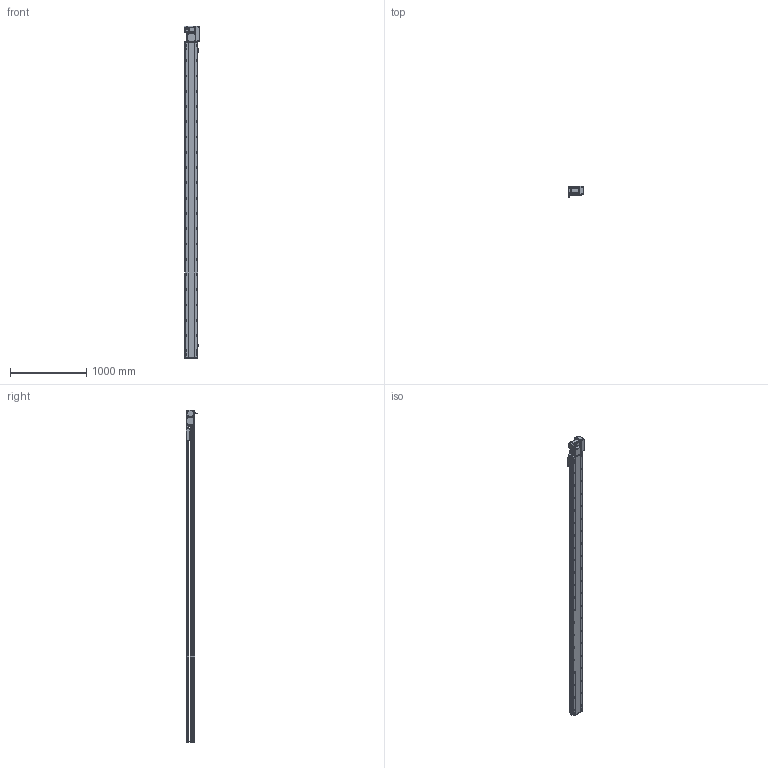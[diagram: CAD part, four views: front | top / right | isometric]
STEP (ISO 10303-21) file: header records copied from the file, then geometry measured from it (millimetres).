
FILE_DESCRIPTION (( 'STEP AP214' ), '1' );
FILE_NAME ('RTB17S-XX-3850-R-M75-C4.STEP', '2025-12-12T01:55:59', ( '' ), ( '' ), 'SwSTEP 2.0', 'SolidWorks 2018', '' );
FILE_SCHEMA (( 'AUTOMOTIVE_DESIGN' ));
Length unit declared in the file: millimetre
Products named in the file (15): RTB17S-賑釱^RTB17S-XX-XX-R-M75-C4; RTH13-BL-012覜茼え俋离^RTB17S-賑釱_RTB17S-XX-XX-R-M75-C4; RTB22S-GY-017P^RTB17S-R-々湍釱蚾饜-750W_RTB17S-XX-XX-R-M75-C4; RTB22S-GY-005P^RTB17S-R-々湍釱蚾饜-750W_RTB17S-XX-XX-R-M75-C4; RTB22S-GY-008-M75--萇儂啣^RTB17S-R-々湍釱蚾饜-750W_RTB17S-XX-XX-R-M75-C4; RTB22S-GY-018P^RTB17S-R-々湍釱蚾饜-750W_RTB17S-XX-XX-R-M75-C4; RTB17S-R-々湍釱蚾饜-750W^RTB17S-XX-XX-R-M75-C4; RTB17S-L-004-賑釱^RTB17S-賑釱_RTB17S-XX-XX-R-M75-C4; RTB17S-L-007奻裔^RTB17S-XX-XX-R-M75-C4; EE672^RTB17S-XX-XX-R-M75-C4; RTB17S-L-014-T20-P75--々湍釱^RTB17S-R-々湍釱蚾饜-750W_RTB17S-XX-XX-R-M75-C4; RTB17-R-011菁釱^RTB17S-XX-XX-R-M75-C4; RTB17S-L-001-耜醱啣^RTB17S-XX-XX-R-M75-C4; RTB17S-XX-3850-R-M75-C4; 750W萇儂^RTB17S-XX-XX-R-M75-C4
Assembly tree (17 placements, depth 3):
  RTB17S-XX-3850-R-M75-C4
    RTB17-R-011菁釱^RTB17S-XX-XX-R-M75-C4
    EE672^RTB17S-XX-XX-R-M75-C4  x3
    RTB17S-L-001-耜醱啣^RTB17S-XX-XX-R-M75-C4
    RTB17S-賑釱^RTB17S-XX-XX-R-M75-C4
      RTB17S-L-004-賑釱^RTB17S-賑釱_RTB17S-XX-XX-R-M75-C4
      RTH13-BL-012覜茼え俋离^RTB17S-賑釱_RTB17S-XX-XX-R-M75-C4
    RTB17S-L-007奻裔^RTB17S-XX-XX-R-M75-C4
    750W萇儂^RTB17S-XX-XX-R-M75-C4
    RTB17S-R-々湍釱蚾饜-750W^RTB17S-XX-XX-R-M75-C4
      RTB17S-L-014-T20-P75--々湍釱^RTB17S-R-々湍釱蚾饜-750W_RTB17S-XX-XX-R-M75-C4
      RTB22S-GY-005P^RTB17S-R-々湍釱蚾饜-750W_RTB17S-XX-XX-R-M75-C4
      RTB22S-GY-017P^RTB17S-R-々湍釱蚾饜-750W_RTB17S-XX-XX-R-M75-C4  x2
      RTB22S-GY-008-M75--萇儂啣^RTB17S-R-々湍釱蚾饜-750W_RTB17S-XX-XX-R-M75-C4
      RTB22S-GY-018P^RTB17S-R-々湍釱蚾饜-750W_RTB17S-XX-XX-R-M75-C4
Bounding box: 207.4 x 152.7 x 4349 mm (x, y, z)
Volume: 30011699.6 mm3; surface area: 5573456 mm2
Topology: 17 solids, 17 shells, 2329 faces, 6592 edges, 4274 vertices
Faces by surface type: plane 1000, cylinder 913, bspline 294, cone 110, sphere 8, torus 4
Entity records: 69622 total; most frequent: CARTESIAN_POINT 20856, ORIENTED_EDGE 10028, DIRECTION 9212, EDGE_CURVE 5014, AXIS2_PLACEMENT_3D 3294, VERTEX_POINT 3278, VECTOR 2624, LINE 2624
